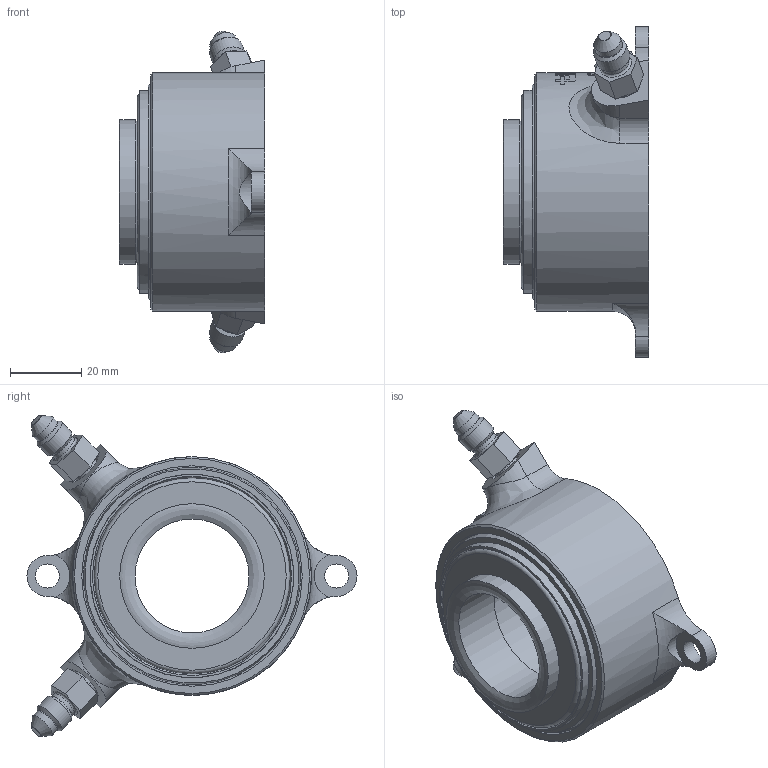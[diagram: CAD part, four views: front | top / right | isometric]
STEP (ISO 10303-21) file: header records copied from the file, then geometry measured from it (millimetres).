
FILE_DESCRIPTION(/* description */ ('Unknown'),/* implementation_level */ '2;1');
FILE_NAME(/* name */ '61-8003 SIMPLE',/* time_stamp */ '2018-08-09T13:19:38-07:00',/* author */ ('Unknown'),/* organization */ ('Unknown'),/* preprocessor_version */ 'ST-DEVELOPER v16.7',/* originating_system */ 'DEX',/* authorisation */ $);
FILE_SCHEMA (('AUTOMOTIVE_DESIGN {1 0 10303 214 3 1 1}'));
Length unit declared in the file: millimetre
Products named in the file (1): 61-8003 SIMPLE
Bounding box: 40.87 x 92.71 x 90.29 mm (x, y, z)
Volume: 95547.7 mm3; surface area: 25643.6 mm2
Topology: 1 solids, 1 shells, 136 faces, 412 edges, 318 vertices
Faces by surface type: cylinder 63, plane 37, cone 18, torus 16, bspline 2
Full cylindrical faces by diameter (mm): 6.756 x2, 7.734 x2, 7.925 x4, 8.379 x2, 9.525 x2, 32.004 x1, 38.1 x1, 40.64 x1, 54.991 x1, 57.061 x1, 57.912 x1, 61.925 x1, 64.77 x1, 64.922 x1, 67.056 x1
Entity records: 6132 total; most frequent: CARTESIAN_POINT 1878, ORIENTED_EDGE 688, DIRECTION 540, EDGE_CURVE 344, VERTEX_POINT 304, EDGE_LOOP 236, FACE_BOUND 236, AXIS2_PLACEMENT_3D 235
